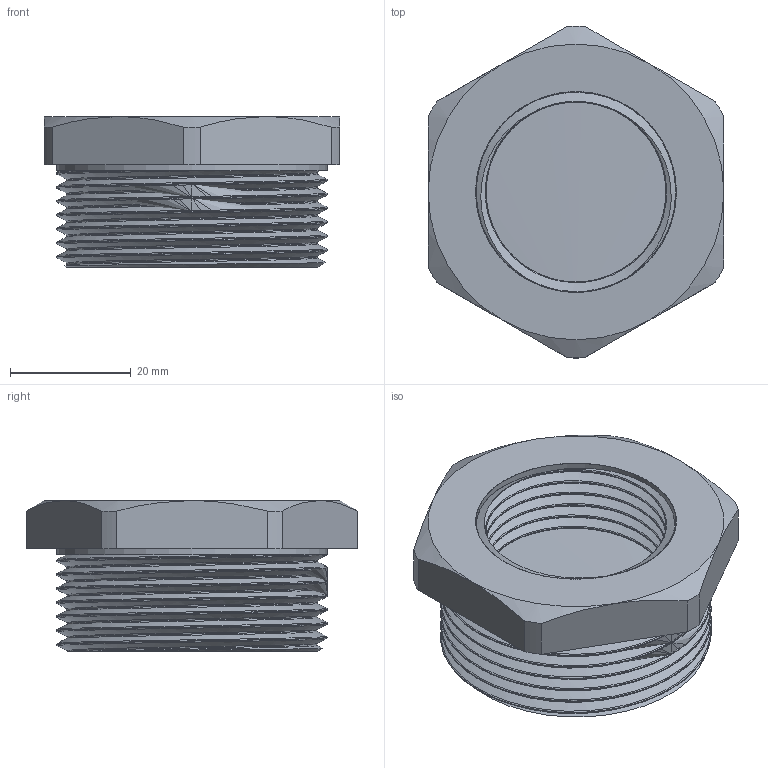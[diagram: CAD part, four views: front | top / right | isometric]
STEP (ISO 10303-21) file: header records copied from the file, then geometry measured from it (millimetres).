
FILE_DESCRIPTION(/* description */ (''),/* implementation_level */ '2;1');
FILE_NAME(/* name */ 'C:\Users\Doom\Desktop\Фадотех\Резьба\PF08 18.03.2020\PF08 18.03.2020.stp',/* time_stamp */ '2022-01-14T01:25:23+02:00',/* author */ ('Doom'),/* organization */ (''),/* preprocessor_version */ 'ST-DEVELOPER v18',/* originating_system */ 'Autodesk Inventor 2020',/* authorisation */ '');
FILE_SCHEMA (('AUTOMOTIVE_DESIGN { 1 0 10303 214 3 1 1 }'));
Length unit declared in the file: millimetre
Products named in the file (1): PF07 18.03.2020
Bounding box: 49 x 54.99 x 25 mm (x, y, z)
Volume: 26674.2 mm3; surface area: 22730 mm2
Topology: 3 solids, 3 shells, 65 faces, 170 edges, 113 vertices
Faces by surface type: cylinder 32, plane 14, bspline 12, cone 7
Full cylindrical faces by diameter (mm): 29.816 x10, 33.24 x2, 41.416 x2, 44.84 x8
Entity records: 11857 total; most frequent: CARTESIAN_POINT 10377, ORIENTED_EDGE 340, DIRECTION 234, EDGE_CURVE 170, VERTEX_POINT 113, AXIS2_PLACEMENT_3D 96, B_SPLINE_CURVE_WITH_KNOTS 74, EDGE_LOOP 73
